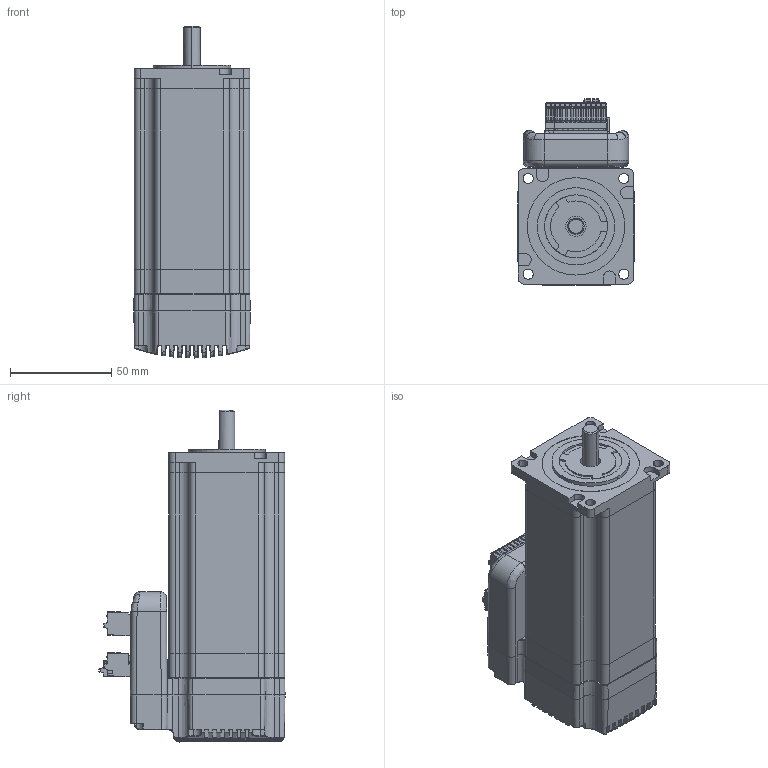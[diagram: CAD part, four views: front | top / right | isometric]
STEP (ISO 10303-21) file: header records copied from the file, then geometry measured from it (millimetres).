
FILE_DESCRIPTION (( 'STEP AP203' ), '1' );
FILE_NAME ('iHSS57-36-30.STEP', '2019-10-26T08:56:56', ( 'USER-' ), ( 'MS' ), 'SwSTEP 2.0', 'SolidWorks 2015', '' );
FILE_SCHEMA (( 'CONFIG_CONTROL_DESIGN' ));
Products named in the file (5): 57珨极趙儂旯89mmx遵37mm; 57x11x37一体化上盖8x21扁轴7.5x15奔驰法兰38.1x1.6; 57珨极趙狟裔12mmx遵37mm; iHSS57珨极趙綴裔31.68x68.05x52; iHSS57-36-30
Assembly tree (4 placements, depth 2):
  iHSS57-36-30
    57珨极趙儂旯89mmx遵37mm
    57x11x37一体化上盖8x21扁轴7.5x15奔驰法兰38.1x1.6
    57珨极趙狟裔12mmx遵37mm
    iHSS57珨极趙綴裔31.68x68.05x52
Bounding box: 57.41 x 91.75 x 163.68 mm (x, y, z)
Volume: 386270.3 mm3; surface area: 102917.8 mm2
Topology: 4 solids, 12 shells, 3255 faces, 8934 edges, 5798 vertices
Faces by surface type: plane 1932, cylinder 985, bspline 228, cone 110
Entity records: 131308 total; most frequent: CARTESIAN_POINT 54197, ORIENTED_EDGE 17854, DIRECTION 12690, EDGE_CURVE 8927, VERTEX_POINT 5798, VECTOR 5708, LINE 5708, AXIS2_PLACEMENT_3D 3491
